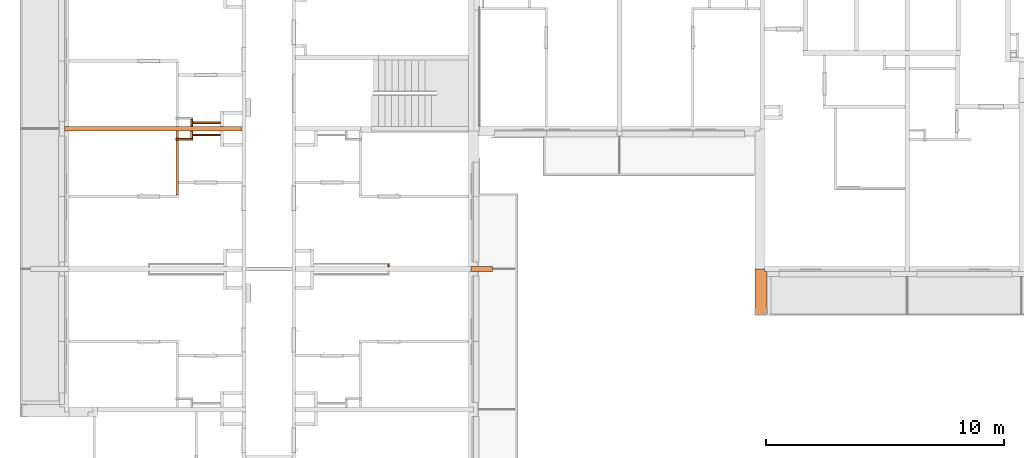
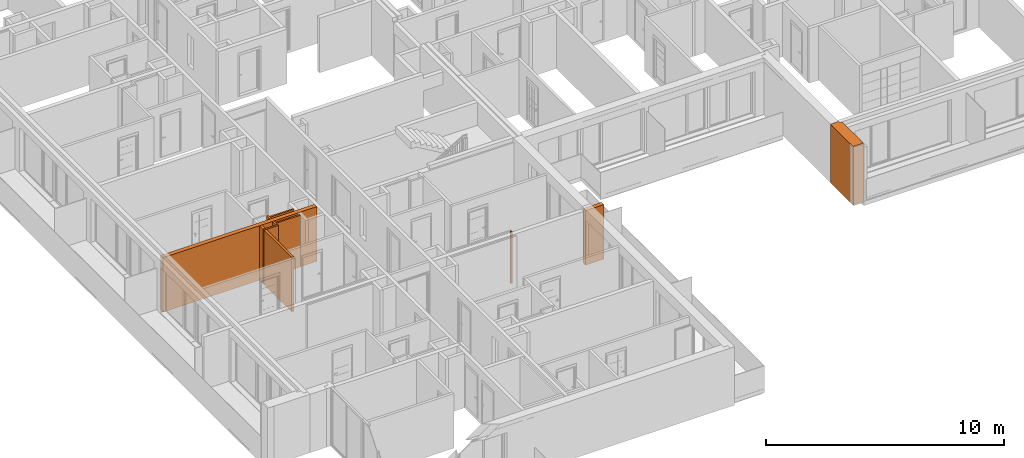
# One storey, part 52 of 64: 10 proxies, 1 opening.
"""IFC2X3 building model written with IfcOpenShell, lengths in millimetres."""

from ifc_helpers import new_model, entity, si_unit, converted_unit, derived_unit, money_unit, direction, frame, origin_with_axes, origin_2d_with_axis, place, context, subcontext, project, spatial, rectangle, extrude, faceted_brep, material, material_list, type_object, element, save


model = new_model("IFC2X3")

# Units and contexts
model_context = context("Model", 3, precision=0.01, world=origin_with_axes(), true_north=direction((0.34421633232, 0.938890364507)))
body_context = subcontext(model_context, "Body", "Model", "MODEL_VIEW")
ifc_project = project(units=[si_unit("LENGTHUNIT", "METRE", prefix="MILLI"), si_unit("AREAUNIT", "SQUARE_METRE"), si_unit("VOLUMEUNIT", "CUBIC_METRE"), converted_unit("PLANEANGLEUNIT", "DEGREE", entity("IfcPlaneAngleMeasure", 0.0174532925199), si_unit("PLANEANGLEUNIT", "RADIAN"), dimensions=[0, 0, 0, 0, 0, 0, 0]), si_unit("SOLIDANGLEUNIT", "STERADIAN"), money_unit("USD"), converted_unit("TIMEUNIT", "Year", entity("IfcTimeMeasure", 31556926.0), si_unit("TIMEUNIT", "SECOND"), dimensions=[0, 0, 1, 0, 0, 0, 0]), si_unit("MASSUNIT", "GRAM", prefix="KILO"), si_unit("THERMODYNAMICTEMPERATUREUNIT", "DEGREE_CELSIUS"), si_unit("LUMINOUSINTENSITYUNIT", "LUMEN"), si_unit("ENERGYUNIT", "JOULE", prefix="MEGA"), derived_unit("THERMALCONDUCTANCEUNIT", [(si_unit("POWERUNIT", "WATT"), 1), (si_unit("LENGTHUNIT", "METRE"), -1), (si_unit("THERMODYNAMICTEMPERATUREUNIT", "KELVIN"), -1)]), derived_unit("SPECIFICHEATCAPACITYUNIT", [(si_unit("ENERGYUNIT", "JOULE"), 1), (si_unit("MASSUNIT", "GRAM", prefix="KILO"), -1), (si_unit("THERMODYNAMICTEMPERATUREUNIT", "KELVIN"), -1)]), derived_unit("MASSDENSITYUNIT", [(si_unit("MASSUNIT", "GRAM", prefix="KILO"), 1), (si_unit("VOLUMEUNIT", "CUBIC_METRE"), -1)])], contexts=[model_context])

# Site, building, storey
site_placement = place(None, origin_with_axes())
site = spatial("IfcSite", under=ifc_project, at=site_placement, Name="USTRONIE MORSKIE", CompositionType="ELEMENT")
building_placement = place(site_placement, origin_with_axes())
building = spatial("IfcBuilding", under=site, at=building_placement, Name="Budynek", CompositionType="ELEMENT")
storey_placement = place(building_placement, frame((0.0, 0.0, 7000.0), z_axis=(0.0, 0.0, 1.0), x_axis=(1.0, 0.0, 0.0)))
storey = spatial("IfcBuildingStorey", under=building, at=storey_placement, Name="PIĘTRO 2", CompositionType="ELEMENT", Elevation=7000.0)

# Proxies
ifc_material_1 = material(Name="Bloczki silikatowe")
building_element_proxy_type_1 = type_object("IfcBuildingElementProxyType", Name="Bloczki silikatowe 120", PredefinedType="NOTDEFINED")
proxy_1_placement = place(storey_placement, frame((354717.920919, 726901.199036, -160.0), z_axis=(0.0, 0.0, 1.0), x_axis=(0.0, -1.0, 0.0)))
element("IfcBuildingElementProxy", 1, at=proxy_1_placement, inside=storey, type_object=building_element_proxy_type_1, material=ifc_material_1, Name="SW-04", context=body_context, shape_type="Brep", body=[
    faceted_brep([(400.01915523, 60.0, 0.0), (99.9999999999, 60.0, 0.0), (99.9999999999, 60.0, 2800.0), (400.01915523, 60.0, 2800.0), (400.01915523, -60.0, 0.0), (99.9999999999, -60.0, 0.0), (99.9999999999, -60.0, 2800.0), (400.01915523, -60.0, 2800.0)], [[[0, 1, 2, 3]], [[4, 5, 1, 0]], [[5, 6, 2, 1]], [[3, 2, 6, 7]], [[4, 0, 3, 7]], [[7, 6, 5, 4]]]),
    faceted_brep([(480.01915523, 60.0, 2800.0), (480.01915523, -60.0, 2800.0), (2790.01935038, -60.0, 2800.0), (2790.01935038, 60.0, 2800.0), (480.01915523, 60.0, 0.0), (480.01915523, -60.0, 0.0), (2790.01935038, -60.0, 0.0), (2790.01935038, 60.0, 0.0)], [[[0, 1, 2, 3]], [[1, 0, 4, 5]], [[1, 5, 6, 2]], [[7, 3, 2, 6]], [[4, 0, 3, 7]], [[5, 4, 7, 6]]]),
])
ifc_material_2 = material(Name="Płyta GK")
ifc_material_3 = material(Name="-Pustka powietrzna")
ifc_material_list_1 = material_list([ifc_material_2, ifc_material_2, ifc_material_3])
building_element_proxy_type_2 = type_object("IfcBuildingElementProxyType", Name="330-SD GK 2-warstwy 75", PredefinedType="NOTDEFINED")
proxy_2_placement = place(storey_placement, frame((355317.920919, 727171.200737, -180.0), z_axis=(0.0, 0.0, 1.0), x_axis=(1.0, 0.0, 0.0)))
element("IfcBuildingElementProxy", 2, at=proxy_2_placement, inside=storey, type_object=building_element_proxy_type_2, material=ifc_material_list_1, Name="Ściana-009", context=body_context, shape_type="Brep", body=[
    faceted_brep([(1199.99909883, 12.5, 165.0), (1199.99909883, 25.0, 165.0), (1199.99909883, 25.0, 2820.0), (1199.99909883, 12.5, 2820.0), (40.0, 25.0, 165.0), (40.0, 12.5, 165.0), (40.0, 25.0, 2820.0), (40.0, 12.5, 2820.0)], [[[0, 1, 2, 3]], [[4, 1, 0, 5]], [[1, 4, 6, 2]], [[7, 3, 2, 6]], [[5, 0, 3, 7]], [[4, 5, 7, 6]]]),
    faceted_brep([(1199.99909883, 0.0, 165.0), (1199.99909883, 12.5, 165.0), (1199.99909883, 12.5, 2820.0), (1199.99909883, 0.0, 2820.0), (40.0, 12.5, 165.0), (40.0, 0.0, 165.0), (40.0, 12.5, 2820.0), (40.0, 0.0, 2820.0)], [[[0, 1, 2, 3]], [[4, 1, 0, 5]], [[1, 4, 6, 2]], [[7, 3, 2, 6]], [[5, 0, 3, 7]], [[4, 5, 7, 6]]]),
    faceted_brep([(1199.99909883, -50.0, 180.0), (1199.99909883, 0.0, 180.0), (1199.99909883, 0.0, 2820.0), (1199.99909883, -50.0, 2820.0), (40.0, 0.0, 180.0), (40.0, -50.0, 180.0), (40.0, 0.0, 2820.0), (40.0, -50.0, 2820.0)], [[[0, 1, 2, 3]], [[4, 1, 0, 5]], [[1, 4, 6, 2]], [[7, 3, 2, 6]], [[5, 0, 3, 7]], [[4, 5, 7, 6]]]),
])
ifc_material_list_2 = material_list([ifc_material_3, ifc_material_2, ifc_material_2])
proxy_3_placement = place(storey_placement, frame((355317.920919, 726631.200807, -180.0), z_axis=(0.0, 0.0, 1.0), x_axis=(1.0, 0.0, 0.0)))
element("IfcBuildingElementProxy", 3, at=proxy_3_placement, inside=storey, type_object=building_element_proxy_type_2, material=ifc_material_list_2, Name="Ściana-009", context=body_context, shape_type="Brep", body=[
    faceted_brep([(1210.0, 0.0, 180.0), (1210.0, 50.0, 180.0), (1210.0, 50.0, 2820.0), (1210.0, 0.0, 2820.0), (40.0, 50.0, 180.0), (40.0, 0.0, 180.0), (40.0, 50.0, 2820.0), (40.0, 0.0, 2820.0)], [[[0, 1, 2, 3]], [[4, 1, 0, 5]], [[1, 4, 6, 2]], [[2, 6, 7, 3]], [[5, 0, 3, 7]], [[4, 5, 7, 6]]]),
    faceted_brep([(1210.0, -12.5, 165.0), (1210.0, 0.0, 165.0), (1210.0, 0.0, 2820.0), (1210.0, -12.5, 2820.0), (40.0, 0.0, 165.0), (40.0, -12.5, 165.0), (40.0, 0.0, 2820.0), (40.0, -12.5, 2820.0)], [[[0, 1, 2, 3]], [[4, 1, 0, 5]], [[1, 4, 6, 2]], [[2, 6, 7, 3]], [[5, 0, 3, 7]], [[4, 5, 7, 6]]]),
    faceted_brep([(1210.0, -25.0, 165.0), (1210.0, -12.5, 165.0), (1210.0, -12.5, 2820.0), (1210.0, -25.0, 2820.0), (40.0, -12.5, 165.0), (40.0, -25.0, 165.0), (40.0, -12.5, 2820.0), (40.0, -25.0, 2820.0)], [[[0, 1, 2, 3]], [[4, 1, 0, 5]], [[1, 4, 6, 2]], [[2, 6, 7, 3]], [[5, 0, 3, 7]], [[4, 5, 7, 6]]]),
])
proxy_4_placement = place(storey_placement, frame((363617.920919, 721001.199036, -180.0), z_axis=(0.0, 0.0, 1.0), x_axis=(0.0, 1.0, 0.0)))
element("IfcBuildingElementProxy", 4, at=proxy_4_placement, inside=storey, type_object=building_element_proxy_type_2, material=ifc_material_list_2, Name="Ściana-009", context=body_context, shape_type="Brep", body=[
    faceted_brep([(100.0, 0.0, 180.0), (180.0, 0.0, 180.0), (180.0, 0.0, 2820.0), (100.0, 0.0, 2820.0), (180.0, 50.0, 180.0), (100.0, 50.0, 180.0), (180.0, 50.0, 2820.0), (100.0, 50.0, 2820.0)], [[[0, 1, 2, 3]], [[4, 1, 0, 5]], [[1, 4, 6, 2]], [[6, 7, 3, 2]], [[5, 0, 3, 7]], [[4, 5, 7, 6]]]),
    faceted_brep([(100.0, -12.5, 165.0), (230.0, -12.5, 165.0), (230.0, -12.5, 2820.0), (100.0, -12.5, 2820.0), (230.0, 0.0, 165.0), (100.0, 0.0, 165.0), (230.0, 0.0, 2820.0), (100.0, 0.0, 2820.0)], [[[0, 1, 2, 3]], [[4, 1, 0, 5]], [[1, 4, 6, 2]], [[6, 7, 3, 2]], [[5, 0, 3, 7]], [[4, 5, 7, 6]]]),
    faceted_brep([(100.0, -25.0, 165.0), (242.5, -25.0, 165.0), (242.5, -25.0, 2820.0), (100.0, -25.0, 2820.0), (242.5, -12.5, 165.0), (100.0, -12.5, 165.0), (242.5, -12.5, 2820.0), (100.0, -12.5, 2820.0)], [[[0, 1, 2, 3]], [[4, 1, 0, 5]], [[1, 4, 6, 2]], [[6, 7, 3, 2]], [[5, 0, 3, 7]], [[4, 5, 7, 6]]]),
])
building_element_proxy_type_3 = type_object("IfcBuildingElementProxyType", Name="Bloczki silikatowe 80", PredefinedType="NOTDEFINED")
proxy_5_placement = place(storey_placement, frame((354717.920919, 726461.179881, -160.0), z_axis=(0.0, 0.0, 1.0), x_axis=(1.0, 0.0, 0.0)))
element("IfcBuildingElementProxy", 5, at=proxy_5_placement, inside=storey, type_object=building_element_proxy_type_3, material=ifc_material_1, Name="Ściana-009", context=body_context, shape_type="Brep", body=[
    faceted_brep([(640.0, -40.0, 2800.0), (640.0, 40.0, 2800.0), (-60.0, 40.0, 2800.0), (-60.0, -40.0, 2800.0), (640.0, -40.0, 0.0), (640.0, 40.0, 0.0), (-60.0, 40.0, 0.0), (-60.0, -40.0, 0.0)], [[[0, 1, 2, 3]], [[1, 0, 4, 5]], [[1, 5, 6, 2]], [[7, 3, 2, 6]], [[4, 0, 3, 7]], [[5, 4, 7, 6]]]),
])
proxy_6_placement = place(storey_placement, frame((355317.920919, 726901.199036, -160.0), z_axis=(0.0, 0.0, 1.0), x_axis=(0.0, 1.0, 0.0)))
element("IfcBuildingElementProxy", 6, at=proxy_6_placement, inside=storey, type_object=building_element_proxy_type_3, material=ifc_material_1, Name="Ściana-010", context=body_context, shape_type="Brep", body=[
    faceted_brep([(400.01915523, 40.0, 0.0), (400.01915523, -40.0, 0.0), (100.0, -40.0, 0.0), (100.0, 40.0, 0.0), (400.01915523, 40.0, 2800.0), (400.01915523, -40.0, 2800.0), (100.0, -40.0, 2800.0), (100.0, 40.0, 2800.0)], [[[0, 1, 2, 3]], [[1, 0, 4, 5]], [[1, 5, 6, 2]], [[7, 3, 2, 6]], [[4, 0, 3, 7]], [[5, 4, 7, 6]]]),
])
proxy_7_placement = place(storey_placement, frame((355317.920919, 726901.199036, -160.0), z_axis=(0.0, 0.0, 1.0), x_axis=(0.0, -1.0, 0.0)))
element("IfcBuildingElementProxy", 7, at=proxy_7_placement, inside=storey, type_object=building_element_proxy_type_3, material=ifc_material_1, Name="Ściana-010", context=body_context, shape_type="Brep", body=[
    faceted_brep([(400.01915523, 40.0, 0.0), (100.0, 40.0, 0.0), (100.0, 40.0, 2800.0), (400.01915523, 40.0, 2800.0), (400.01915523, -40.0, 0.0), (100.0, -40.0, 0.0), (100.0, -40.0, 2800.0), (400.01915523, -40.0, 2800.0)], [[[0, 1, 2, 3]], [[4, 5, 1, 0]], [[5, 6, 2, 1]], [[3, 2, 6, 7]], [[4, 0, 3, 7]], [[7, 6, 5, 4]]]),
])
ifc_material_4 = material(Name="Beton konstrukcyjny B25")
building_element_proxy_type_4 = type_object("IfcBuildingElementProxyType", Name="Beton konstrukcyjny B25 200", PredefinedType="NOTDEFINED")
proxy_8_placement = place(storey_placement, frame((367967.952198, 721001.199036, -160.0), z_axis=(0.0, 0.0, 1.0), x_axis=(-1.0, 0.0, 0.0)))
element("IfcBuildingElementProxy", 8, at=proxy_8_placement, inside=storey, type_object=building_element_proxy_type_4, material=ifc_material_4, Name="SW-01", context=body_context, shape_type="Brep", body=[
    faceted_brep([(900.019676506, 100.0, 2800.0), (0.0, 100.0, 2800.0), (0.0, -100.0, 2800.0), (900.019676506, -100.0, 2800.0), (900.019676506, 100.0, 0.0), (0.0, 100.0, 0.0), (0.0, -100.0, 0.0), (900.019676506, -100.0, 0.0)], [[[0, 1, 2, 3]], [[4, 5, 1, 0]], [[1, 5, 6, 2]], [[3, 2, 6, 7]], [[7, 4, 0, 3]], [[7, 6, 5, 4]]]),
])
proxy_9_placement = place(storey_placement, frame((350067.920919, 726901.199036, -160.0), z_axis=(0.0, 0.0, 1.0), x_axis=(1.0, 0.0, 0.0)))
element("IfcBuildingElementProxy", 9, at=proxy_9_placement, inside=storey, type_object=building_element_proxy_type_4, material=ifc_material_4, Name="SW-01", context=body_context, shape_type="Brep", body=[
    faceted_brep([(-100.0, -100.0, 2800.0), (7370.0, -100.0, 2800.0), (7370.0, 100.0, 2800.0), (-100.0, 100.0, 2800.0), (-100.0, -100.0, 0.0), (7370.0, -100.0, 0.0), (7370.0, 100.0, 0.0), (-100.0, 100.0, 0.0)], [[[0, 1, 2, 3]], [[4, 5, 1, 0]], [[6, 2, 1, 5]], [[3, 2, 6, 7]], [[7, 4, 0, 3]], [[7, 6, 5, 4]]]),
])

# Proxy, opening
ifc_material_5 = material(Name="Tynk zewnętrzny")
ifc_material_6 = material(Name="Wełna ELEW")
ifc_material_list_3 = material_list([ifc_material_5, ifc_material_6, ifc_material_4, ifc_material_6, ifc_material_5])
building_element_proxy_type_5 = type_object("IfcBuildingElementProxyType", Name="BALKON bok 01 520", PredefinedType="NOTDEFINED")
proxy_10_placement = place(storey_placement, frame((379317.920919, 721001.199036, -160.0), z_axis=(0.0, 0.0, 1.0), x_axis=(0.0, -1.0, 0.0)))
proxy_10 = element("IfcBuildingElementProxy", 10, at=proxy_10_placement, inside=storey, type_object=building_element_proxy_type_5, material=ifc_material_list_3, Name="Œciana-006", context=body_context, shape_type="Brep", body=[
    faceted_brep([(1949.99981809, 210.0, 0.0), (300.0, 210.0, 0.0), (300.0, 210.0, 3000.0), (1949.99981809, 210.0, 3000.0), (1949.99981809, 200.0, 0.0), (300.0, 200.0, 0.0), (300.0, 200.0, 3000.0), (1949.99981809, 200.0, 3000.0)], [[[0, 1, 2, 3]], [[4, 5, 1, 0]], [[5, 6, 2, 1]], [[3, 2, 6, 7]], [[3, 7, 4, 0]], [[7, 6, 5, 4]]]),
    faceted_brep([(100.0, 200.0, 0.0), (100.0, 200.0, 3000.0), (1949.99981809, 200.0, 3000.0), (1949.99981809, 200.0, 0.0), (100.0, 100.000005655, 3000.0), (100.0, 100.000005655, 0.0), (1949.99981809, 100.0, 3000.0), (1949.99981809, 100.0, 0.0)], [[[0, 1, 2, 3]], [[4, 1, 0, 5]], [[1, 4, 6, 2]], [[6, 7, 3, 2]], [[5, 0, 3, 7]], [[4, 5, 7, 6]]]),
    faceted_brep([(0.0, -100.0, 0.0), (0.0, 100.0, 0.0), (1949.99981809, 100.0, 0.0), (1949.99981809, -100.0, 0.0), (0.0, -100.0, 3000.0), (0.0, 100.0, 3000.0), (1949.99981809, 100.0, 3000.0), (1949.99981809, -100.0, 3000.0)], [[[0, 1, 2, 3]], [[4, 5, 1, 0]], [[1, 5, 6, 2]], [[7, 3, 2, 6]], [[4, 0, 3, 7]], [[5, 4, 7, 6]]]),
    faceted_brep([(0.0, -100.0, 0.0), (1949.99981809, -100.0, 0.0), (1949.99981809, -300.0, 0.0), (0.0, -300.0, 0.0), (0.0, -100.0, 3000.0), (1949.99981809, -100.0, 3000.0), (1949.99981809, -300.0, 3000.0), (0.0, -300.0, 3000.0)], [[[0, 1, 2, 3]], [[4, 5, 1, 0]], [[2, 1, 5, 6]], [[3, 2, 6, 7]], [[4, 0, 3, 7]], [[7, 6, 5, 4]]]),
    faceted_brep([(0.0, -300.0, 0.0), (1949.99981809, -300.0, 0.0), (1949.99981809, -310.0, 0.0), (0.0, -310.0, 0.0), (0.0, -300.0, 3000.0), (1949.99981809, -300.0, 3000.0), (1949.99981809, -310.0, 3000.0), (0.0, -310.0, 3000.0)], [[[0, 1, 2, 3]], [[4, 5, 1, 0]], [[2, 1, 5, 6]], [[3, 2, 6, 7]], [[4, 0, 3, 7]], [[7, 6, 5, 4]]]),
])
opening_placement = place(proxy_10_placement, frame((1949.99981809, 0.0, 0.0), z_axis=(0.0, 0.0, 1.0), x_axis=(1.0, 0.0, 0.0)))
element("IfcOpeningElement", 11, at=opening_placement, cuts=proxy_10, Name="ZS1", context=body_context, shape_type="SweptSolid", body=[
    extrude(rectangle(XDim=9.99999999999, YDim=50.0000000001, at=origin_2d_with_axis()), frame((-25.0, 205.0, 0.0), z_axis=(0.0, 0.0, 1.0), x_axis=(0.0, -1.0, 0.0)), (0.0, 0.0, 1.0), 3000.0),
    extrude(rectangle(XDim=9.99999999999, YDim=250.0, at=origin_2d_with_axis()), frame((-175.0, 205.0, 0.0), z_axis=(0.0, 0.0, 1.0), x_axis=(0.0, -1.0, 0.0)), (0.0, 0.0, 1.0), 3000.0),
    extrude(rectangle(XDim=9.99999999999, YDim=50.0000000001, at=origin_2d_with_axis()), frame((-25.0000000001, -305.0, 0.0), z_axis=(0.0, 0.0, 1.0), x_axis=(0.0, -1.0, 0.0)), (0.0, 0.0, 1.0), 3000.0),
    extrude(rectangle(XDim=9.99999999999, YDim=250.0, at=origin_2d_with_axis()), frame((-175.0, -305.0, 0.0), z_axis=(0.0, 0.0, 1.0), x_axis=(0.0, -1.0, 0.0)), (0.0, 0.0, 1.0), 3000.0),
    extrude(rectangle(XDim=500.0, YDim=50.0000000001, at=origin_2d_with_axis()), frame((-25.0000000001, -50.0, 0.0), z_axis=(0.0, 0.0, 1.0), x_axis=(0.0, -1.0, 0.0)), (0.0, 0.0, 1.0), 3000.0),
])

save(model, "model.ifc")
